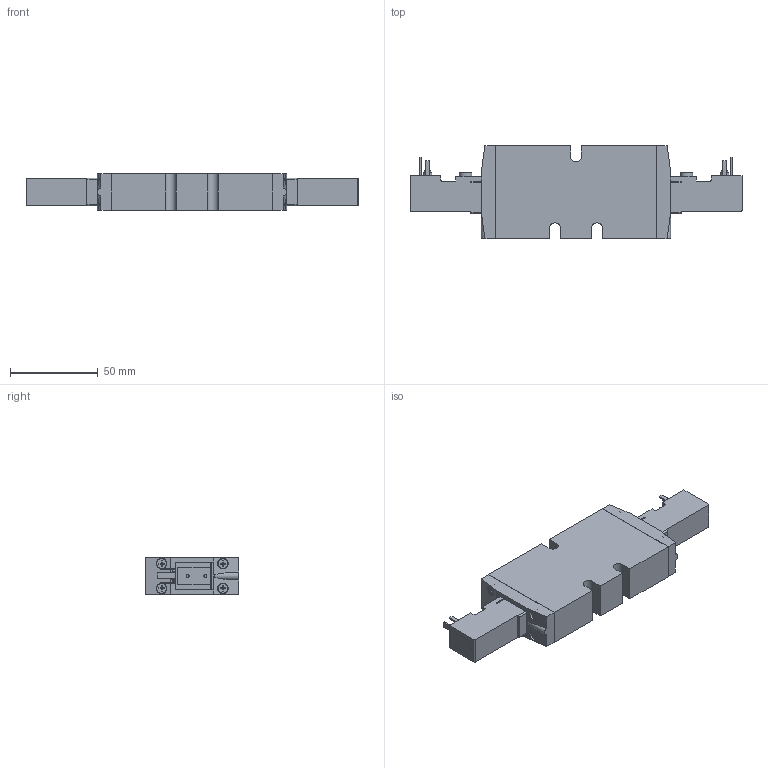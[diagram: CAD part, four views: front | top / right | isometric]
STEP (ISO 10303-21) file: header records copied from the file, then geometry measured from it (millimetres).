
FILE_DESCRIPTION((''),'2;1');
FILE_NAME('0820058771','2023-06-20T11:14:38',('THD3HC'),(''),'CREO PARAMETRIC BY PTC INC, 2020044','CREO PARAMETRIC BY PTC INC, 2020044','');
FILE_SCHEMA(('CONFIG_CONTROL_DESIGN','SHAPE_APPEARANCE_LAYERS_GROUPS'));
Length unit declared in the file: millimetre
Products named in the file (1): 0820058771
Bounding box: 189.6 x 53.5 x 21 mm (x, y, z)
Volume: 136378.4 mm3; surface area: 28071.2 mm2
Topology: 1 solids, 1 shells, 444 faces, 1134 edges, 752 vertices
Faces by surface type: plane 359, cylinder 81, cone 4
Entity records: 16765 total; most frequent: CARTESIAN_POINT 2710, ORIENTED_EDGE 2268, DIRECTION 2156, EDGE_CURVE 1134, VECTOR 960, LINE 960, VERTEX_POINT 752, AXIS2_PLACEMENT_3D 598
